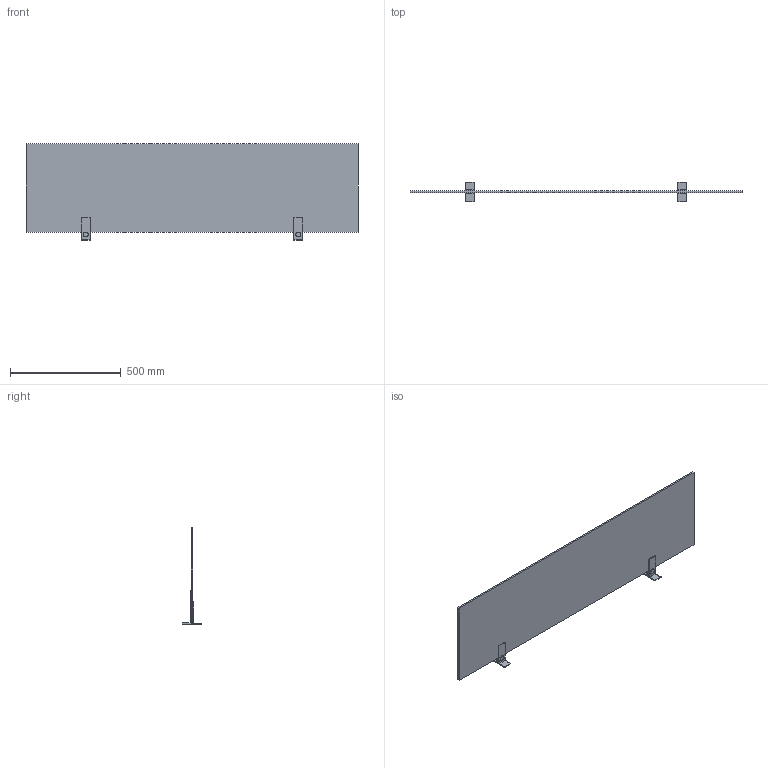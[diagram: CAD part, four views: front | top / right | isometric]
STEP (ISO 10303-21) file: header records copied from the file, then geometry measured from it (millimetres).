
FILE_DESCRIPTION( ( 'STEP AP214' ), '1' );
FILE_NAME( 'D:/Yug/2022/Actiforce_2022/QC/9309842.stp', '2022-03-02T07:23:00', ( '' ), ( '' ), ' ', 'PARTsolutions', ' ' );
FILE_SCHEMA( ( 'AUTOMOTIVE_DESIGN { 1 0 10303 214 1 1 1 1 }' ) );
Length unit declared in the file: millimetre
Products named in the file (3): 9309842; _9309840; _9309842_2
Assembly tree (3 placements, depth 2):
  9309842
    _9309840  x2
    _9309842_2
Bounding box: 1500 x 88 x 436 mm (x, y, z)
Volume: 4919397.4 mm3; surface area: 1289990.6 mm2
Topology: 3 solids, 3 shells, 72 faces, 158 edges, 106 vertices
Faces by surface type: plane 64, cylinder 8
Full cylindrical faces by diameter (mm): 9 x4, 20 x2, 22 x2
Entity records: 1400 total; most frequent: CARTESIAN_POINT 179, DIRECTION 174, ORIENTED_EDGE 160, EDGE_CURVE 80, LINE 72, VECTOR 72, VERTEX_POINT 56, AXIS2_PLACEMENT_3D 51
